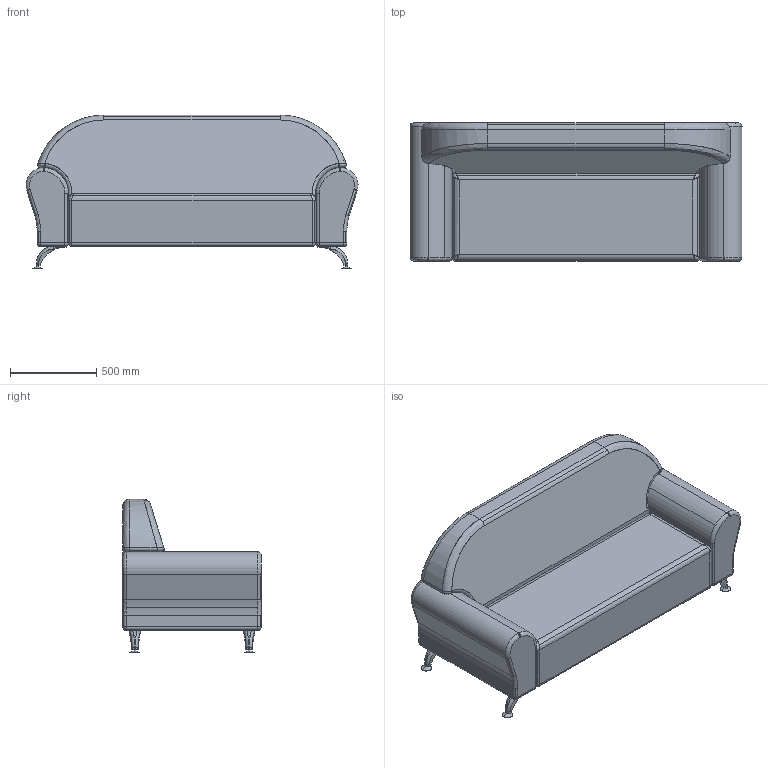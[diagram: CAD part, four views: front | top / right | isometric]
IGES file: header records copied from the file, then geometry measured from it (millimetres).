
Start section: IMSI TurboCAD v14.0
Global section: author: NULL; organization: NULL; date: 20121022.171239; units: millimetre
Bounding box: 1920.7 x 800 x 890 mm (x, y, z)
Surface area: 8277706.4 mm2 (no closed solid volume)
Topology: 0 solids, 0 shells, 279 faces, 1312 edges, 1286 vertices
Faces by surface type: revolution 186, extrusion 71, bspline 22
